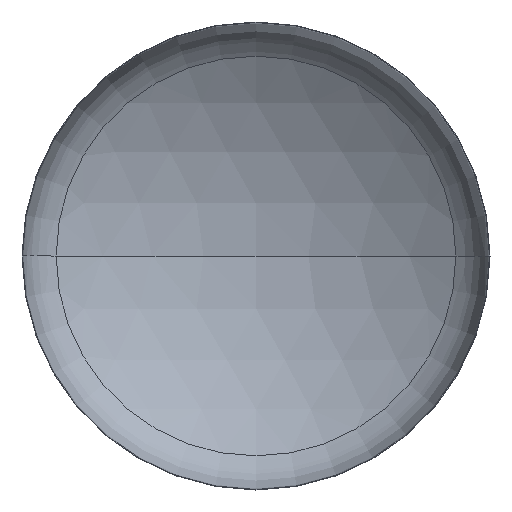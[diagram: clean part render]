
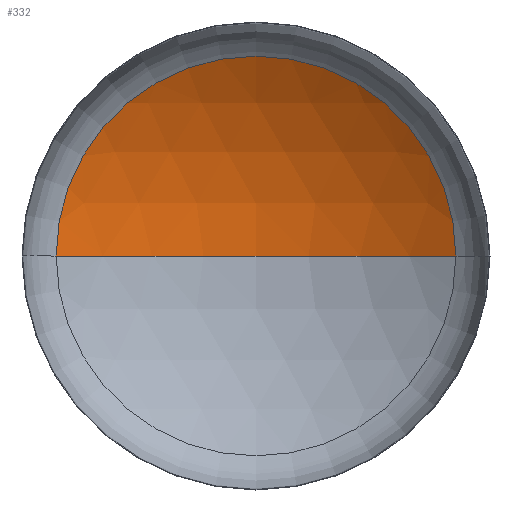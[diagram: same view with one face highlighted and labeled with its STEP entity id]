
A CAD part, front view. The second image highlights one B-rep face of the part: STEP entity #332.
In plain terms, the highlighted spherical face has radius 5600 mm.
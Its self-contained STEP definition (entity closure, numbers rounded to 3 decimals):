
#32 = AXIS2_PLACEMENT_3D ( 'NONE', #152, #162, #241 ) ;
#44 = VERTEX_POINT ( 'NONE', #287 ) ;
#64 = ORIENTED_EDGE ( 'NONE', *, *, #188, .T. ) ;
#71 = ORIENTED_EDGE ( 'NONE', *, *, #191, .T. ) ;
#81 = VERTEX_POINT ( 'NONE', #276 ) ;
#82 = EDGE_LOOP ( 'NONE', ( #108, #71, #64 ) ) ;
#108 = ORIENTED_EDGE ( 'NONE', *, *, #194, .F. ) ;
#117 = AXIS2_PLACEMENT_3D ( 'NONE', #183, #368, #184 ) ;
#119 = AXIS2_PLACEMENT_3D ( 'NONE', #131, #216, #138 ) ;
#122 = AXIS2_PLACEMENT_3D ( 'NONE', #264, #327, #348 ) ;
#131 = CARTESIAN_POINT ( 'NONE',  ( 0., -3797.019, 0. ) ) ;
#138 = DIRECTION ( 'NONE',  ( -1., 0., 0. ) ) ;
#152 = CARTESIAN_POINT ( 'NONE',  ( 0., -3797.019, 0. ) ) ;
#162 = DIRECTION ( 'NONE',  ( 0., 0., -1. ) ) ;
#183 = CARTESIAN_POINT ( 'NONE',  ( 0., -3797.019, 0. ) ) ;
#184 = DIRECTION ( 'NONE',  ( 1., 0., 0. ) ) ;
#188 = EDGE_CURVE ( 'NONE', #44, #81, #269, .T. ) ;
#191 = EDGE_CURVE ( 'NONE', #340, #44, #202, .T. ) ;
#194 = EDGE_CURVE ( 'NONE', #340, #81, #372, .T. ) ;
#202 = CIRCLE ( 'NONE', #119, 5600. ) ;
#216 = DIRECTION ( 'NONE',  ( 0., 0., -1. ) ) ;
#241 = DIRECTION ( 'NONE',  ( -1., 0., 0. ) ) ;
#256 = SPHERICAL_SURFACE ( 'NONE', #32, 5600. ) ;
#264 = CARTESIAN_POINT ( 'NONE',  ( 0., 938.226, 0. ) ) ;
#269 = CIRCLE ( 'NONE', #122, 2989.558 ) ;
#276 = CARTESIAN_POINT ( 'NONE',  ( -2989.558, 938.226, 0. ) ) ;
#287 = CARTESIAN_POINT ( 'NONE',  ( 2989.558, 938.226, 0. ) ) ;
#290 = CARTESIAN_POINT ( 'NONE',  ( 0., 1802.981, 0. ) ) ;
#327 = DIRECTION ( 'NONE',  ( 0., -1., 0. ) ) ;
#332 = ADVANCED_FACE ( 'NONE', ( #361 ), #256, .F. ) ;
#340 = VERTEX_POINT ( 'NONE', #290 ) ;
#348 = DIRECTION ( 'NONE',  ( 1., 0., 0. ) ) ;
#361 = FACE_OUTER_BOUND ( 'NONE', #82, .T. ) ;
#368 = DIRECTION ( 'NONE',  ( 0., 0., 1. ) ) ;
#372 = CIRCLE ( 'NONE', #117, 5600. ) ;
